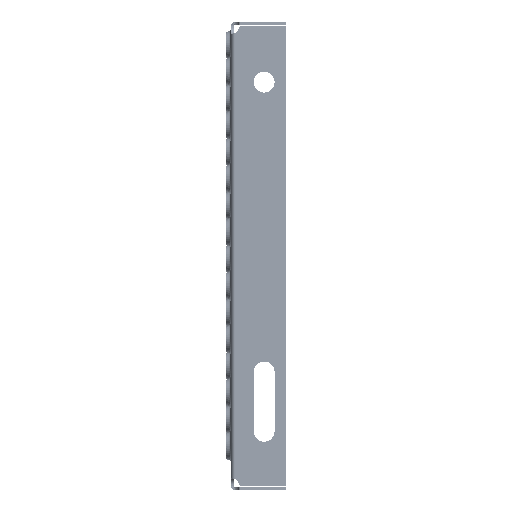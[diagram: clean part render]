
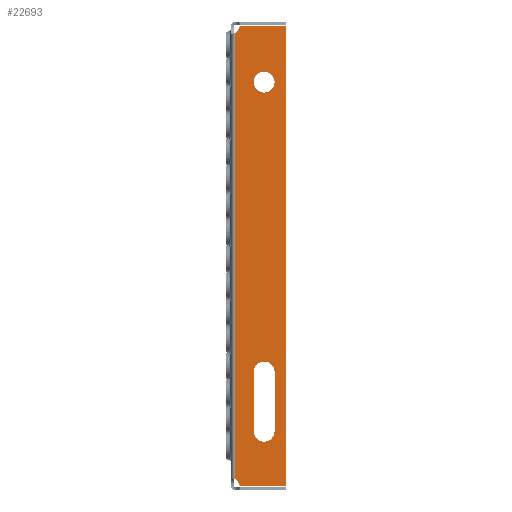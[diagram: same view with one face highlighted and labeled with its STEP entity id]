
A CAD part, left-side view. The second image highlights one B-rep face of the part: STEP entity #22693.
In plain terms, the highlighted planar face has unit normal (-1, 0, 0).
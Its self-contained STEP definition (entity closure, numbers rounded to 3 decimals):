
#424 = VECTOR ( 'NONE', #435, 1000. ) ;
#435 = DIRECTION ( 'NONE',  ( 0., 1., 0. ) ) ;
#509 = CARTESIAN_POINT ( 'NONE',  ( -200., -6.416, 171. ) ) ;
#521 = EDGE_LOOP ( 'NONE', ( #34787, #9939, #25391, #17164, #13542, #574, #26342, #34868 ) ) ;
#574 = ORIENTED_EDGE ( 'NONE', *, *, #1227, .T. ) ;
#1227 = EDGE_CURVE ( 'NONE', #20760, #33676, #7623, .T. ) ;
#1354 = DIRECTION ( 'NONE',  ( 0., 0., -1. ) ) ;
#1380 = AXIS2_PLACEMENT_3D ( 'NONE', #21125, #4782, #23877 ) ;
#1975 = CARTESIAN_POINT ( 'NONE',  ( -200., -3., -143.916 ) ) ;
#2211 = ORIENTED_EDGE ( 'NONE', *, *, #14190, .F. ) ;
#2352 = CARTESIAN_POINT ( 'NONE',  ( -200., -3., 166.67 ) ) ;
#2487 = CARTESIAN_POINT ( 'NONE',  ( -200., -37.5, -138. ) ) ;
#2512 = CARTESIAN_POINT ( 'NONE',  ( -200., 0.5, -143.916 ) ) ;
#2634 = DIRECTION ( 'NONE',  ( 1., 0., 0. ) ) ;
#3815 = EDGE_LOOP ( 'NONE', ( #17152, #10834, #29064, #2211 ) ) ;
#3988 = CARTESIAN_POINT ( 'NONE',  ( -200., -15.5, -101.5 ) ) ;
#4001 = VERTEX_POINT ( 'NONE', #22941 ) ;
#4283 = DIRECTION ( 'NONE',  ( 0., 0., -1. ) ) ;
#4306 = VERTEX_POINT ( 'NONE', #18642 ) ;
#4557 = AXIS2_PLACEMENT_3D ( 'NONE', #29440, #13139, #32158 ) ;
#4782 = DIRECTION ( 'NONE',  ( -1., 0., 0. ) ) ;
#4918 = CARTESIAN_POINT ( 'NONE',  ( -200., -29.5, -61.5 ) ) ;
#4924 = CARTESIAN_POINT ( 'NONE',  ( -200., -22.5, 126.5 ) ) ;
#5230 = CIRCLE ( 'NONE', #1380, 1. ) ;
#5444 = LINE ( 'NONE', #20632, #19097 ) ;
#5567 = EDGE_CURVE ( 'NONE', #6752, #12710, #34777, .T. ) ;
#5695 = CARTESIAN_POINT ( 'NONE',  ( -200., -22.5, 133.5 ) ) ;
#6617 = AXIS2_PLACEMENT_3D ( 'NONE', #2512, #2634, #21676 ) ;
#6752 = VERTEX_POINT ( 'NONE', #25825 ) ;
#6863 = VECTOR ( 'NONE', #8339, 1000. ) ;
#7220 = VERTEX_POINT ( 'NONE', #8513 ) ;
#7623 = LINE ( 'NONE', #16738, #424 ) ;
#7646 = EDGE_CURVE ( 'NONE', #7220, #21386, #5230, .T. ) ;
#7757 = VECTOR ( 'NONE', #9665, 1000. ) ;
#7836 = CARTESIAN_POINT ( 'NONE',  ( -200., -37.5, -138. ) ) ;
#8069 = EDGE_CURVE ( 'NONE', #21386, #18657, #28665, .T. ) ;
#8087 = DIRECTION ( 'NONE',  ( -1., 0., 0. ) ) ;
#8339 = DIRECTION ( 'NONE',  ( 0., 0., 1. ) ) ;
#8436 = DIRECTION ( 'NONE',  ( 0., 0., -1. ) ) ;
#8513 = CARTESIAN_POINT ( 'NONE',  ( -200., -5.43, -137.167 ) ) ;
#8917 = DIRECTION ( 'NONE',  ( -1., 0., 0. ) ) ;
#9238 = FACE_BOUND ( 'NONE', #35204, .T. ) ;
#9665 = DIRECTION ( 'NONE',  ( 0., -1., 0. ) ) ;
#9939 = ORIENTED_EDGE ( 'NONE', *, *, #10910, .T. ) ;
#10000 = CARTESIAN_POINT ( 'NONE',  ( -200., -15.5, -61.5 ) ) ;
#10588 = EDGE_CURVE ( 'NONE', #4001, #28443, #23869, .T. ) ;
#10767 = DIRECTION ( 'NONE',  ( 0., 0., 1. ) ) ;
#10834 = ORIENTED_EDGE ( 'NONE', *, *, #33526, .F. ) ;
#10910 = EDGE_CURVE ( 'NONE', #6752, #7220, #11906, .T. ) ;
#11120 = EDGE_CURVE ( 'NONE', #33676, #4306, #33194, .T. ) ;
#11783 = EDGE_CURVE ( 'NONE', #26678, #15266, #5444, .T. ) ;
#11906 = CIRCLE ( 'NONE', #31316, 5. ) ;
#11996 = AXIS2_PLACEMENT_3D ( 'NONE', #24429, #8087, #27181 ) ;
#12150 = EDGE_CURVE ( 'NONE', #32404, #32404, #28509, .T. ) ;
#12710 = VERTEX_POINT ( 'NONE', #2352 ) ;
#13001 = CARTESIAN_POINT ( 'NONE',  ( -200., -6.416, 170. ) ) ;
#13139 = DIRECTION ( 'NONE',  ( 1., 0., 0. ) ) ;
#13199 = AXIS2_PLACEMENT_3D ( 'NONE', #25232, #8917, #27992 ) ;
#13478 = PLANE ( 'NONE',  #6617 ) ;
#13542 = ORIENTED_EDGE ( 'NONE', *, *, #20717, .T. ) ;
#14190 = EDGE_CURVE ( 'NONE', #15266, #4001, #17708, .T. ) ;
#15266 = VERTEX_POINT ( 'NONE', #3988 ) ;
#15646 = FACE_OUTER_BOUND ( 'NONE', #521, .T. ) ;
#15750 = DIRECTION ( 'NONE',  ( 0., 0., 1. ) ) ;
#16140 = EDGE_CURVE ( 'NONE', #4306, #12710, #22253, .T. ) ;
#16574 = CARTESIAN_POINT ( 'NONE',  ( -200., -37.5, 171. ) ) ;
#16738 = CARTESIAN_POINT ( 'NONE',  ( -200., -37.5, 171. ) ) ;
#17152 = ORIENTED_EDGE ( 'NONE', *, *, #11783, .F. ) ;
#17164 = ORIENTED_EDGE ( 'NONE', *, *, #8069, .T. ) ;
#17659 = DIRECTION ( 'NONE',  ( 1., 0., 0. ) ) ;
#17708 = CIRCLE ( 'NONE', #13199, 7. ) ;
#18287 = DIRECTION ( 'NONE',  ( 0., 0., 1. ) ) ;
#18642 = CARTESIAN_POINT ( 'NONE',  ( -200., -5.43, 170.167 ) ) ;
#18657 = VERTEX_POINT ( 'NONE', #7836 ) ;
#19097 = VECTOR ( 'NONE', #4283, 1000. ) ;
#19465 = VECTOR ( 'NONE', #18287, 1000. ) ;
#20519 = CARTESIAN_POINT ( 'NONE',  ( -200., -6.416, -138. ) ) ;
#20632 = CARTESIAN_POINT ( 'NONE',  ( -200., -15.5, -61.5 ) ) ;
#20717 = EDGE_CURVE ( 'NONE', #18657, #20760, #21378, .T. ) ;
#20760 = VERTEX_POINT ( 'NONE', #16574 ) ;
#21125 = CARTESIAN_POINT ( 'NONE',  ( -200., -6.416, -137. ) ) ;
#21378 = LINE ( 'NONE', #2487, #6863 ) ;
#21386 = VERTEX_POINT ( 'NONE', #29961 ) ;
#21676 = DIRECTION ( 'NONE',  ( 0., 0., -1. ) ) ;
#22253 = CIRCLE ( 'NONE', #4557, 5. ) ;
#22693 = ADVANCED_FACE ( 'NONE', ( #15646, #9238, #30108 ), #13478, .F. ) ;
#22941 = CARTESIAN_POINT ( 'NONE',  ( -200., -29.5, -101.5 ) ) ;
#23006 = VECTOR ( 'NONE', #10767, 1000. ) ;
#23869 = LINE ( 'NONE', #32430, #23006 ) ;
#23877 = DIRECTION ( 'NONE',  ( 0., 0., -1. ) ) ;
#24429 = CARTESIAN_POINT ( 'NONE',  ( -200., -22.5, -61.5 ) ) ;
#24770 = DIRECTION ( 'NONE',  ( -1., 0., 0. ) ) ;
#25232 = CARTESIAN_POINT ( 'NONE',  ( -200., -22.5, -101.5 ) ) ;
#25391 = ORIENTED_EDGE ( 'NONE', *, *, #7646, .T. ) ;
#25825 = CARTESIAN_POINT ( 'NONE',  ( -200., -3., -133.67 ) ) ;
#26342 = ORIENTED_EDGE ( 'NONE', *, *, #11120, .T. ) ;
#26678 = VERTEX_POINT ( 'NONE', #10000 ) ;
#27181 = DIRECTION ( 'NONE',  ( 0., 0., -1. ) ) ;
#27992 = DIRECTION ( 'NONE',  ( 0., 0., -1. ) ) ;
#28443 = VERTEX_POINT ( 'NONE', #4918 ) ;
#28509 = CIRCLE ( 'NONE', #30904, 7. ) ;
#28665 = LINE ( 'NONE', #20519, #7757 ) ;
#29064 = ORIENTED_EDGE ( 'NONE', *, *, #10588, .F. ) ;
#29440 = CARTESIAN_POINT ( 'NONE',  ( -200., -0.5, 171. ) ) ;
#29961 = CARTESIAN_POINT ( 'NONE',  ( -200., -6.416, -138. ) ) ;
#30108 = FACE_BOUND ( 'NONE', #3815, .T. ) ;
#30642 = AXIS2_PLACEMENT_3D ( 'NONE', #13001, #32025, #15750 ) ;
#30859 = CIRCLE ( 'NONE', #11996, 7. ) ;
#30904 = AXIS2_PLACEMENT_3D ( 'NONE', #5695, #24770, #8436 ) ;
#31316 = AXIS2_PLACEMENT_3D ( 'NONE', #33949, #17659, #1354 ) ;
#31842 = ORIENTED_EDGE ( 'NONE', *, *, #12150, .F. ) ;
#32025 = DIRECTION ( 'NONE',  ( -1., 0., 0. ) ) ;
#32158 = DIRECTION ( 'NONE',  ( 0., 0., -1. ) ) ;
#32404 = VERTEX_POINT ( 'NONE', #4924 ) ;
#32430 = CARTESIAN_POINT ( 'NONE',  ( -200., -29.5, -61.5 ) ) ;
#33194 = CIRCLE ( 'NONE', #30642, 1. ) ;
#33526 = EDGE_CURVE ( 'NONE', #28443, #26678, #30859, .T. ) ;
#33676 = VERTEX_POINT ( 'NONE', #509 ) ;
#33949 = CARTESIAN_POINT ( 'NONE',  ( -200., -0.5, -138. ) ) ;
#34777 = LINE ( 'NONE', #1975, #19465 ) ;
#34787 = ORIENTED_EDGE ( 'NONE', *, *, #5567, .F. ) ;
#34868 = ORIENTED_EDGE ( 'NONE', *, *, #16140, .T. ) ;
#35204 = EDGE_LOOP ( 'NONE', ( #31842 ) ) ;
